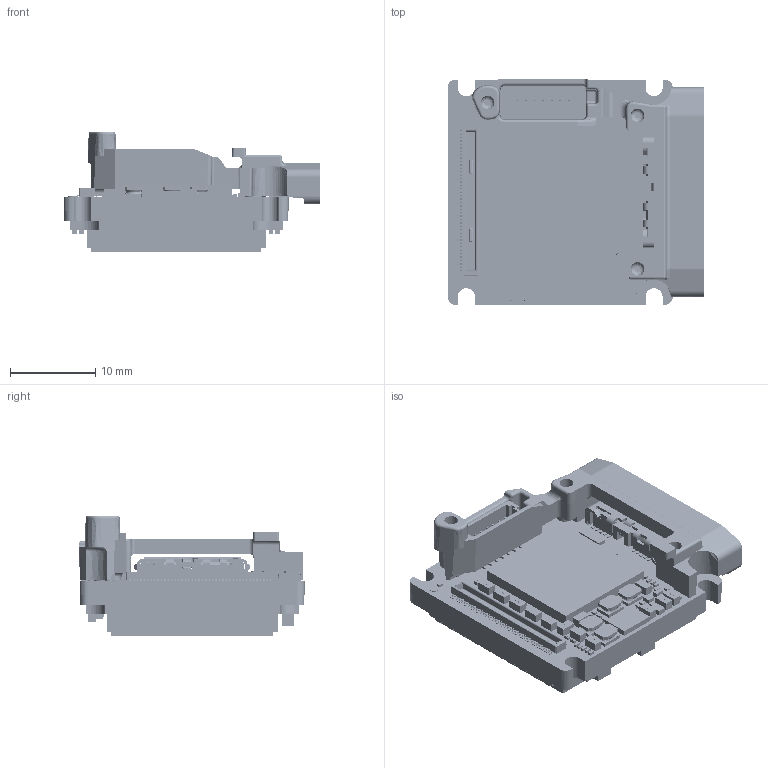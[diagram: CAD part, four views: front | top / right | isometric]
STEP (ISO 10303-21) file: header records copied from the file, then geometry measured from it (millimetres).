
FILE_DESCRIPTION (( 'STEP AP214' ), '1' );
FILE_NAME ('Alvium-USB90-Bare-Board-IMX540-541-542.STEP', '2022-12-22T09:48:51', ( '' ), ( '' ), 'SwSTEP 2.0', 'SolidWorks 2021', '' );
FILE_SCHEMA (( 'AUTOMOTIVE_DESIGN' ));
Length unit declared in the file: millimetre
Products named in the file (1): Alvium-USB90-Bare-Board-IMX540-541-542
Bounding box: 30.1 x 26.45 x 14.15 mm (x, y, z)
Surface area: 6707.5 mm2 (no closed solid volume)
Topology: 0 solids, 374 shells, 8478 faces, 25585 edges, 18218 vertices
Faces by surface type: plane 4579, bspline 2566, cylinder 1255, cone 38, torus 32, sphere 8
Entity records: 568268 total; most frequent: CARTESIAN_POINT 268053, ORIENTED_EDGE 45717, DIRECTION 31548, EDGE_CURVE 25575, VERTEX_POINT 18218, LINE 14696, VECTOR 14696, EDGE_LOOP 9550
